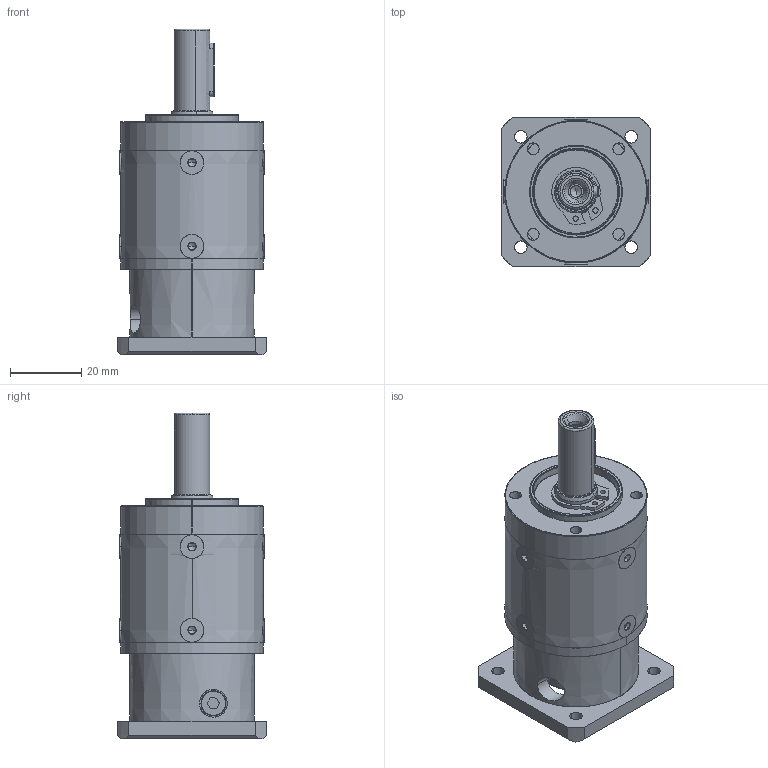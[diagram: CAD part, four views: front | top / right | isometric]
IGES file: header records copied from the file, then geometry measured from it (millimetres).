
Start section: SolidWorks IGES file using analytic representation for surfaces
Global section: file name: C:\TeknicPDM\Remarketed and Private Label Products\Gearboxes\Gearbox Customer Files\GSLL (Newstart PL Series)\GSLL-040-0_ _-N017_-XX Single Stage.IGS; native system: SolidWorks 2020; preprocessor: SolidWorks 2020; author: zeb_koch; date: 250826.104215; units: millimetre
Bounding box: 42 x 42 x 91.5 mm (x, y, z)
Surface area: 39264.1 mm2 (no closed solid volume)
Topology: 0 solids, 0 shells, 1133 faces, 22288 edges, 22210 vertices
Faces by surface type: bspline 647, revolution 486
